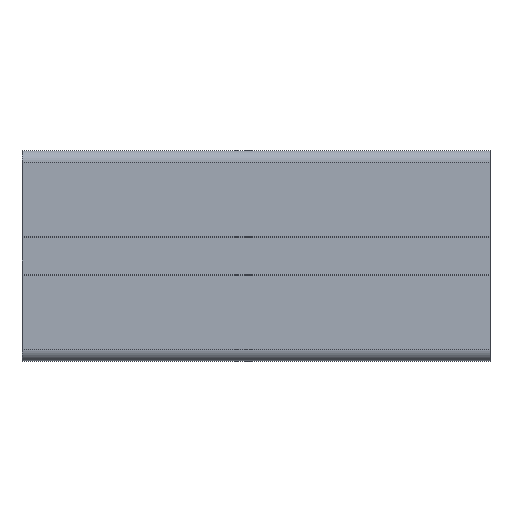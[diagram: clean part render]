
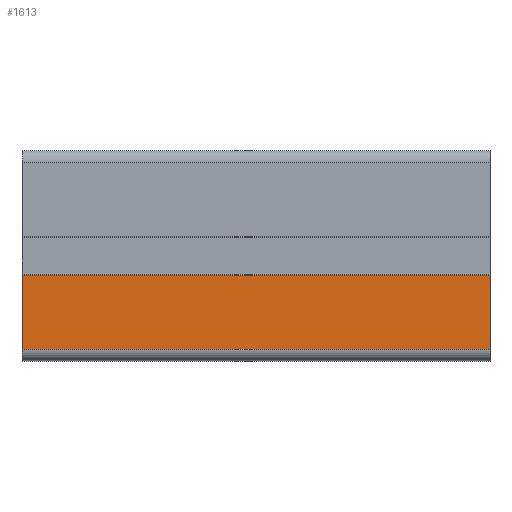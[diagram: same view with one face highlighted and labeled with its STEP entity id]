
A CAD part, top view. The second image highlights one B-rep face of the part: STEP entity #1613.
In plain terms, the highlighted planar face has unit normal (0, 0, 1).
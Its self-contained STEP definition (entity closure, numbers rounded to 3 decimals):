
#26=PLANE('',#1718);
#85=FACE_OUTER_BOUND('',#168,.T.);
#168=EDGE_LOOP('',(#1108,#1109,#1110,#1111));
#261=LINE('',#2320,#454);
#264=LINE('',#2326,#457);
#265=LINE('',#2328,#458);
#266=LINE('',#2329,#459);
#454=VECTOR('',#1859,1000.);
#457=VECTOR('',#1864,1000.);
#458=VECTOR('',#1865,1000.);
#459=VECTOR('',#1866,1000.);
#698=VERTEX_POINT('',#2317);
#699=VERTEX_POINT('',#2319);
#701=VERTEX_POINT('',#2325);
#702=VERTEX_POINT('',#2327);
#861=EDGE_CURVE('',#699,#698,#261,.T.);
#864=EDGE_CURVE('',#698,#701,#264,.T.);
#865=EDGE_CURVE('',#702,#701,#265,.T.);
#866=EDGE_CURVE('',#699,#702,#266,.T.);
#1108=ORIENTED_EDGE('',*,*,#864,.T.);
#1109=ORIENTED_EDGE('',*,*,#865,.F.);
#1110=ORIENTED_EDGE('',*,*,#866,.F.);
#1111=ORIENTED_EDGE('',*,*,#861,.T.);
#1613=ADVANCED_FACE('',(#85),#26,.F.);
#1718=AXIS2_PLACEMENT_3D('',#2324,#1862,#1863);
#1859=DIRECTION('',(-1.,0.,0.));
#1862=DIRECTION('center_axis',(0.,0.,-1.));
#1863=DIRECTION('ref_axis',(-1.,0.,0.));
#1864=DIRECTION('',(0.,-1.,0.));
#1865=DIRECTION('',(-1.,0.,0.));
#1866=DIRECTION('',(0.,-1.,0.));
#2317=CARTESIAN_POINT('',(0.,-4.15,22.5));
#2319=CARTESIAN_POINT('',(100.,-4.15,22.5));
#2320=CARTESIAN_POINT('',(100.,-4.15,22.5));
#2324=CARTESIAN_POINT('Origin',(100.,-20.,22.5));
#2325=CARTESIAN_POINT('',(0.,-20.,22.5));
#2326=CARTESIAN_POINT('',(0.,-20.,22.5));
#2327=CARTESIAN_POINT('',(100.,-20.,22.5));
#2328=CARTESIAN_POINT('',(100.,-20.,22.5));
#2329=CARTESIAN_POINT('',(100.,-20.,22.5));
